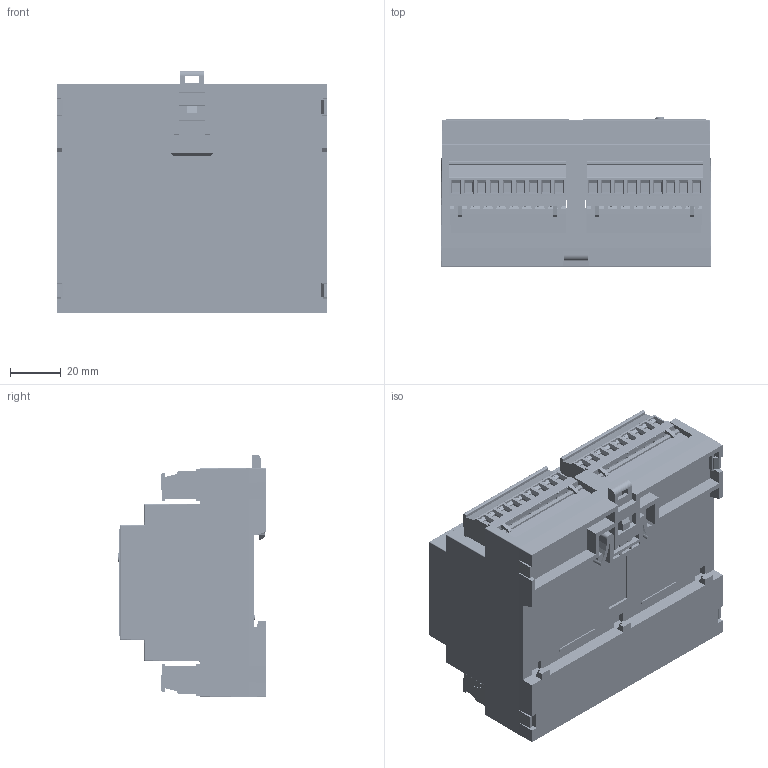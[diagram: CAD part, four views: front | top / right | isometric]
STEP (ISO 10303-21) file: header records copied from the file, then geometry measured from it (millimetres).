
FILE_DESCRIPTION (( 'STEP AP214' ), '1' );
FILE_NAME ('BRSP.421243.003_SITE.STEP', '2024-05-21T15:43:19', ( 'd.a.glushkov' ), ( '' ), 'SwSTEP 2.0', 'SolidWorks 2022', '' );
FILE_SCHEMA (( 'AUTOMOTIVE_DESIGN' ));
Length unit declared in the file: millimetre
Products named in the file (50): 68611614122.step; ____________ ________________ 6x6x17.step; _______2EDGV-5.08-09P^XT5BRSP.687253.001_BRSP.687253.001_BRSP.468332.019; ___________805 _______.step; XT4BRSP.687253.001^BRSP.687253.001_BRSP.468332.019; _______2EDGV-5.08-09P^XT3BRSP.687253.001_BRSP.687253.001_BRSP.468332.019; XT2BRSP.687253.001^BRSP.687253.001_BRSP.468332.019; 6860xx14122_FLANGE.step; ___________805 _______-0.step; _______2EDGKA-5.08-09P^XT4BRSP.687253.001_BRSP.687253.001_BRSP.468332.019; XT3BRSP.687253.001^BRSP.687253.001_BRSP.468332.019; HL4BRSP.758725.015.step; C2BRSP.758725.015.step; HL2BRSP.758725.015.step; XS1BRSP.758725.015.step; R1BRSP.758725.015.step; Open CASCADE STEP translator 6.8 1.1.1^BoardBRSP.687253.001_BRSP.687253.001_BRSP.468332.019; _______2EDGKA-5.08-09P^XT5BRSP.687253.001_BRSP.687253.001_BRSP.468332.019; HL3BRSP.758725.015.step; ________PC 16 pin 1.0mm TOP.step; ____________0603.step; _______2EDGKA-5.08-09P^XT2BRSP.687253.001_BRSP.687253.001_BRSP.468332.019; BRSP.687253.001^BRSP.468332.019; 6860xx14122_FLANGE-BIS.step; BoardBRSP.687253.001^BRSP.687253.001_BRSP.468332.019; BRSP.421243.003_SITE; R4BRSP.758725.015.step; BRSP.758725.015_SITE.step; R2BRSP.758725.015.step; SB1BRSP.758725.015.step; _______2EDGV-5.08-09P^XT2BRSP.687253.001_BRSP.687253.001_BRSP.468332.019; _______2EDGKA-5.08-09P^XT3BRSP.687253.001_BRSP.687253.001_BRSP.468332.019; BRSP.468332.019; Open CASCADE STEP translator 7.5 1.1.1.step; HL1BRSP.758725.015.step; XT1BRSP.687253.001^BRSP.687253.001_BRSP.468332.019; R3BRSP.758725.015.step; C3BRSP.758725.015.step; XT5BRSP.687253.001^BRSP.687253.001_BRSP.468332.019; 6861xx14122_PIN.step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
Assembly tree (71 placements, depth 6):
  BRSP.421243.003_SITE
    D6MG
    BRSP.468332.019
      BRSP.687253.001^BRSP.468332.019
        BoardBRSP.687253.001^BRSP.687253.001_BRSP.468332.019
          Open CASCADE STEP translator 6.8 1.1.1^BoardBRSP.687253.001_BRSP.687253.001_BRSP.468332.019
        XT5BRSP.687253.001^BRSP.687253.001_BRSP.468332.019
          _______2EDGKA-5.08-09P^XT5BRSP.687253.001_BRSP.687253.001_BRSP.468332.019
          _______2EDGV-5.08-09P^XT5BRSP.687253.001_BRSP.687253.001_BRSP.468332.019
        XT4BRSP.687253.001^BRSP.687253.001_BRSP.468332.019
          _______2EDGKA-5.08-09P^XT4BRSP.687253.001_BRSP.687253.001_BRSP.468332.019
          _______2EDGV-5.08-09P^XT4BRSP.687253.001_BRSP.687253.001_BRSP.468332.019
        XT3BRSP.687253.001^BRSP.687253.001_BRSP.468332.019
          _______2EDGKA-5.08-09P^XT3BRSP.687253.001_BRSP.687253.001_BRSP.468332.019
          _______2EDGV-5.08-09P^XT3BRSP.687253.001_BRSP.687253.001_BRSP.468332.019
        XT2BRSP.687253.001^BRSP.687253.001_BRSP.468332.019
          _______2EDGKA-5.08-09P^XT2BRSP.687253.001_BRSP.687253.001_BRSP.468332.019
          _______2EDGV-5.08-09P^XT2BRSP.687253.001_BRSP.687253.001_BRSP.468332.019
        XT1BRSP.687253.001^BRSP.687253.001_BRSP.468332.019
          ____________________3,2_1,5__^XT1BRSP.687253.001_BRSP.687253.001_BRSP.468332.019
    BRSP.758725.015_SITE
      BRSP.758725.015_SITE.step
        BoardBRSP.758725.015.step
          Open CASCADE STEP translator 7.5 1.1.1.step
        SB1BRSP.758725.015.step
          ____________ ________________ 6x6x17.step
        R5BRSP.758725.015.step
          User Library-0603 SMD Resistor.step
        R4BRSP.758725.015.step
          User Library-0603 SMD Resistor.step
        R3BRSP.758725.015.step
          User Library-0603 SMD Resistor.step
        R2BRSP.758725.015.step
          User Library-0603 SMD Resistor.step
        R1BRSP.758725.015.step
          User Library-0603 SMD Resistor.step
        HL4BRSP.758725.015.step
          ___________805 _______.step
        HL3BRSP.758725.015.step
          ___________805 _______-0.step
        HL2BRSP.758725.015.step
          ___________805 _________gC__________.step
        HL1BRSP.758725.015.step
          ___________805 _________gC__________.step
        C3BRSP.758725.015.step
          ____________0603.step
        C2BRSP.758725.015.step
          ____________0603.step
        C1BRSP.758725.015.step
          ____________0603.step
        XS1BRSP.758725.015.step
          ________PC 16 pin 1.0mm TOP.step
            68611614122.step
            6861xx14122_PIN.step  x16
            6860xx14122_FLANGE.step
            6860xx14122_FLANGE-BIS.step
            68611614122_PAD.step
Bounding box: 106.25 x 58.46 x 95.36 mm (x, y, z)
Volume: 133963.6 mm3; surface area: 144289 mm2
Topology: 52 solids, 52 shells, 7833 faces, 20759 edges, 13194 vertices
Faces by surface type: plane 4965, cylinder 1749, cone 304, bspline 289, sphere 272, torus 254
Entity records: 232308 total; most frequent: CARTESIAN_POINT 54347, ORIENTED_EDGE 36986, DIRECTION 34352, EDGE_CURVE 18493, LINE 12952, VECTOR 12952, VERTEX_POINT 11850, AXIS2_PLACEMENT_3D 10700
